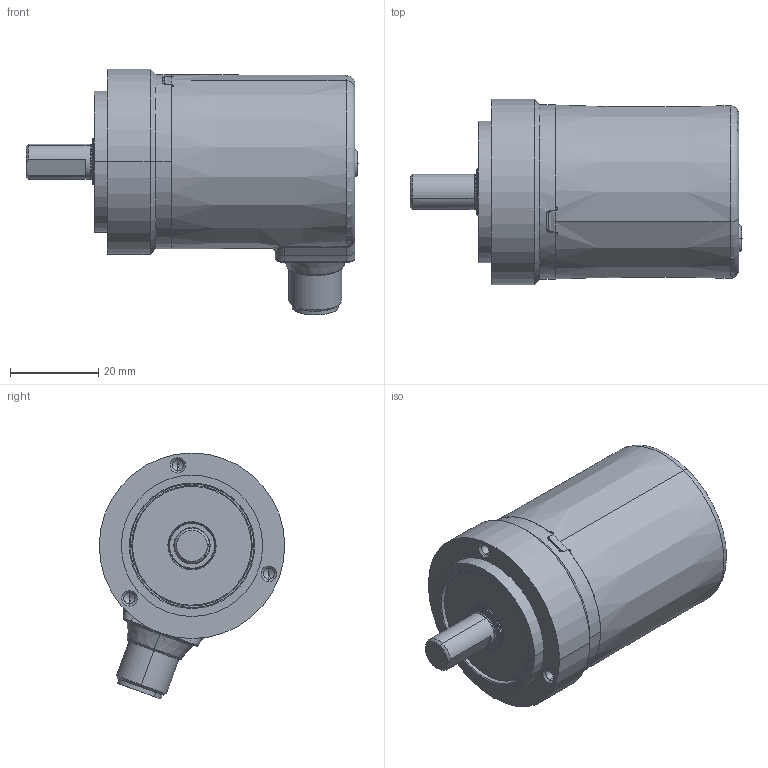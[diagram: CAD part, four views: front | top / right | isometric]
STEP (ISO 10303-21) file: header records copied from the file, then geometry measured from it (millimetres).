
FILE_DESCRIPTION (( 'STEP AP203' ), '1' );
FILE_NAME ('8.M3661R.13X4.XX12.STEP', '2016-03-17T10:39:29', ( 'LauferA' ), ( 'Microsoft' ), 'SwSTEP 2.0', 'SolidWorks 2013', '' );
FILE_SCHEMA (( 'CONFIG_CONTROL_DESIGN' ));
Length unit declared in the file: millimetre
Products named in the file (1): 8.M3661R.13X4.XX12
Bounding box: 75.15 x 42 x 55.68 mm (x, y, z)
Volume: 33514.6 mm3; surface area: 26670.5 mm2
Topology: 6 solids, 6 shells, 950 faces, 2447 edges, 1547 vertices
Faces by surface type: plane 326, cylinder 262, cone 211, torus 95, bspline 54, sphere 2
Entity records: 31737 total; most frequent: CARTESIAN_POINT 8750, ORIENTED_EDGE 4858, DIRECTION 4771, EDGE_CURVE 2429, AXIS2_PLACEMENT_3D 1811, VERTEX_POINT 1547, LINE 1149, VECTOR 1149
